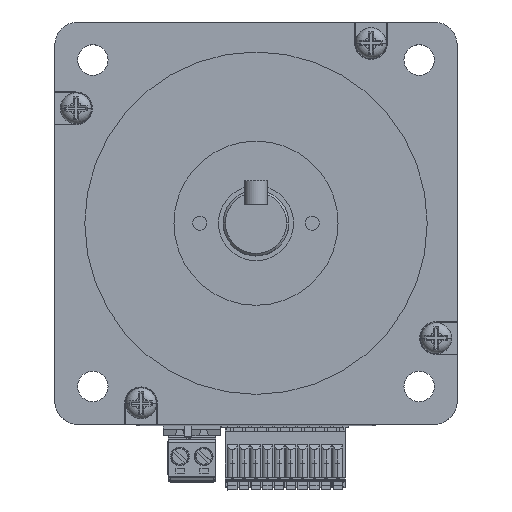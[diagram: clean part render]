
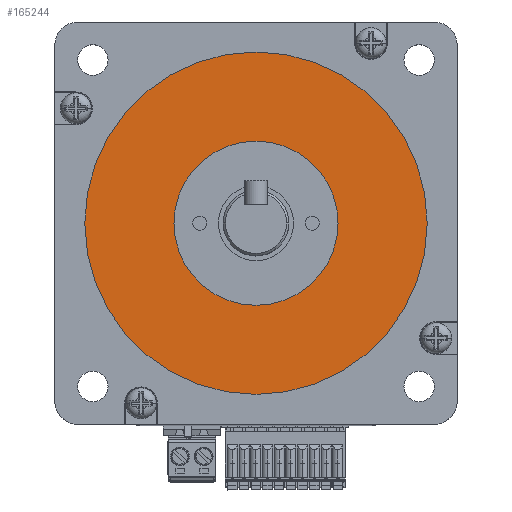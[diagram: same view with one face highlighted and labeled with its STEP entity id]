
A CAD part, top view. The second image highlights one B-rep face of the part: STEP entity #165244.
In plain terms, the highlighted planar face has unit normal (0, 0, 1).
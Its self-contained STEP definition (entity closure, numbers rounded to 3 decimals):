
#2513 = CIRCLE ( 'NONE', #178316, 36.5 ) ;
#8481 = EDGE_CURVE ( 'NONE', #238291, #123548, #2513, .T. ) ;
#11295 = EDGE_CURVE ( 'NONE', #123548, #238291, #97055, .T. ) ;
#19499 = DIRECTION ( 'NONE',  ( 0., 0., 1. ) ) ;
#23664 = CARTESIAN_POINT ( 'NONE',  ( 0., 0., 1.6 ) ) ;
#24289 = EDGE_CURVE ( 'NONE', #32593, #155528, #198803, .T. ) ;
#32593 = VERTEX_POINT ( 'NONE', #46872 ) ;
#41532 = EDGE_LOOP ( 'NONE', ( #52361, #147375 ) ) ;
#46872 = CARTESIAN_POINT ( 'NONE',  ( -17.5, 0., 1.6 ) ) ;
#52361 = ORIENTED_EDGE ( 'NONE', *, *, #157255, .F. ) ;
#61234 = FACE_BOUND ( 'NONE', #41532, .T. ) ;
#74362 = DIRECTION ( 'NONE',  ( 0., 0., 1. ) ) ;
#81155 = PLANE ( 'NONE',  #196014 ) ;
#82492 = CARTESIAN_POINT ( 'NONE',  ( 0., 0., 1.6 ) ) ;
#95299 = AXIS2_PLACEMENT_3D ( 'NONE', #121026, #270516, #229543 ) ;
#97055 = CIRCLE ( 'NONE', #277228, 36.5 ) ;
#121026 = CARTESIAN_POINT ( 'NONE',  ( 0., 0., 1.6 ) ) ;
#123548 = VERTEX_POINT ( 'NONE', #162175 ) ;
#124741 = CARTESIAN_POINT ( 'NONE',  ( 0., 0., 1.6 ) ) ;
#144496 = ORIENTED_EDGE ( 'NONE', *, *, #8481, .T. ) ;
#147375 = ORIENTED_EDGE ( 'NONE', *, *, #24289, .F. ) ;
#147463 = DIRECTION ( 'NONE',  ( 1., 0., 0. ) ) ;
#155528 = VERTEX_POINT ( 'NONE', #269373 ) ;
#157255 = EDGE_CURVE ( 'NONE', #155528, #32593, #228233, .T. ) ;
#162175 = CARTESIAN_POINT ( 'NONE',  ( 36.5, 0., 1.6 ) ) ;
#165244 = ADVANCED_FACE ( 'NONE', ( #61234, #234724 ), #81155, .T. ) ;
#170384 = CARTESIAN_POINT ( 'NONE',  ( -36.5, 0., 1.6 ) ) ;
#178316 = AXIS2_PLACEMENT_3D ( 'NONE', #23664, #19499, #235434 ) ;
#192185 = AXIS2_PLACEMENT_3D ( 'NONE', #124741, #210728, #212114 ) ;
#196014 = AXIS2_PLACEMENT_3D ( 'NONE', #82492, #254483, #147463 ) ;
#198803 = CIRCLE ( 'NONE', #95299, 17.5 ) ;
#210728 = DIRECTION ( 'NONE',  ( 0., 0., 1. ) ) ;
#212114 = DIRECTION ( 'NONE',  ( 1., 0., 0. ) ) ;
#228233 = CIRCLE ( 'NONE', #192185, 17.5 ) ;
#229543 = DIRECTION ( 'NONE',  ( 1., 0., 0. ) ) ;
#234724 = FACE_OUTER_BOUND ( 'NONE', #239308, .T. ) ;
#235434 = DIRECTION ( 'NONE',  ( 1., 0., 0. ) ) ;
#238291 = VERTEX_POINT ( 'NONE', #170384 ) ;
#239308 = EDGE_LOOP ( 'NONE', ( #144496, #258509 ) ) ;
#242208 = DIRECTION ( 'NONE',  ( 1., 0., 0. ) ) ;
#254483 = DIRECTION ( 'NONE',  ( 0., 0., 1. ) ) ;
#258509 = ORIENTED_EDGE ( 'NONE', *, *, #11295, .T. ) ;
#267567 = CARTESIAN_POINT ( 'NONE',  ( 0., 0., 1.6 ) ) ;
#269373 = CARTESIAN_POINT ( 'NONE',  ( 17.5, 0., 1.6 ) ) ;
#270516 = DIRECTION ( 'NONE',  ( 0., 0., 1. ) ) ;
#277228 = AXIS2_PLACEMENT_3D ( 'NONE', #267567, #74362, #242208 ) ;
